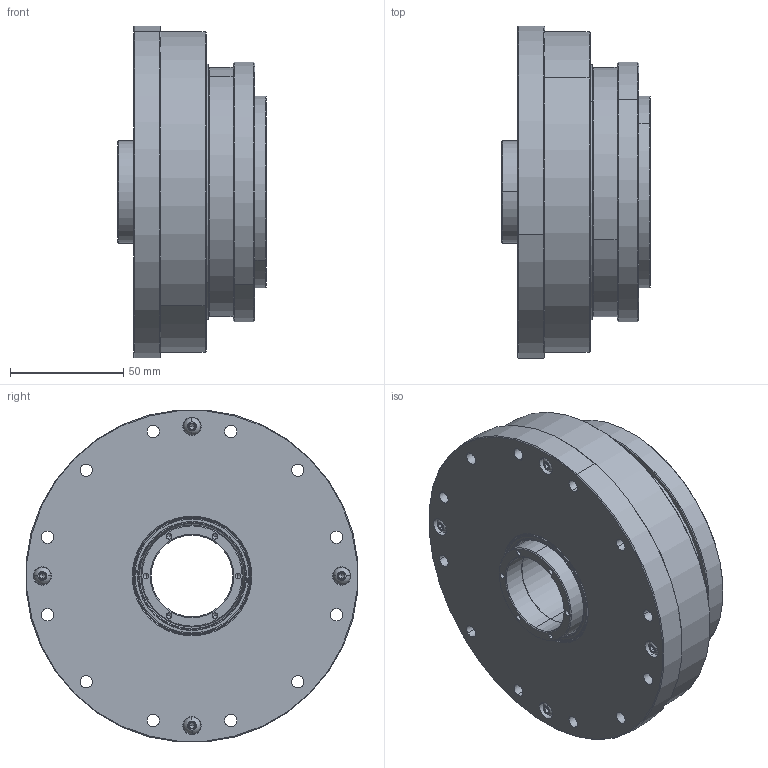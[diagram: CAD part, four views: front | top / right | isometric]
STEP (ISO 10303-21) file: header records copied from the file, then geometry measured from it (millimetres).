
FILE_DESCRIPTION (( 'STEP AP203' ), '1' );
FILE_NAME ('FHG-32-XXX-AH.STEP', '2020-09-28T03:10:43', ( 'AutoBVT' ), ( 'Microsoft' ), 'SwSTEP 2.0', 'SolidWorks 2016', '' );
FILE_SCHEMA (( 'CONFIG_CONTROL_DESIGN' ));
Length unit declared in the file: millimetre
Products named in the file (1): FHG-32-XXX-AH
Bounding box: 65.5 x 146.44 x 146.44 mm (x, y, z)
Volume: 482507.5 mm3; surface area: 206666.3 mm2
Topology: 18 solids, 18 shells, 1118 faces, 2602 edges, 1586 vertices
Faces by surface type: cylinder 462, plane 308, cone 288, torus 40, bspline 12, sphere 8
Entity records: 32507 total; most frequent: CARTESIAN_POINT 6123, DIRECTION 5942, ORIENTED_EDGE 5068, EDGE_CURVE 2534, AXIS2_PLACEMENT_3D 2373, VERTEX_POINT 1586, EDGE_LOOP 1410, CIRCLE 1266
